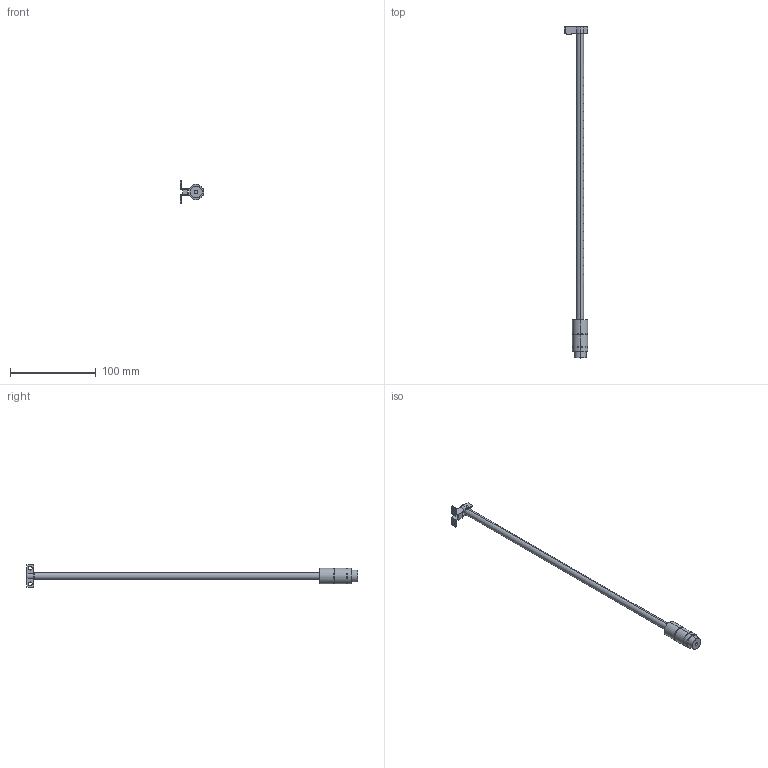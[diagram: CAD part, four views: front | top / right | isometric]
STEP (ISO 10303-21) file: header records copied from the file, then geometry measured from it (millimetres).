
FILE_DESCRIPTION (( 'STEP AP203' ), '1' );
FILE_NAME ('ER-VAB032.STEP', '2005-09-05T00:29:04', ( '' ), ( '' ), 'SwSTEP 2.0', 'SolidWorks 2004073', '' );
FILE_SCHEMA (( 'CONFIG_CONTROL_DESIGN' ));
Length unit declared in the file: millimetre
Products named in the file (1): ER-VAB032
Bounding box: 28 x 387.4 x 26 mm (x, y, z)
Volume: 23505.6 mm3; surface area: 18367.4 mm2
Topology: 2 solids, 2 shells, 127 faces, 344 edges, 228 vertices
Faces by surface type: cylinder 92, plane 35
Entity records: 5097 total; most frequent: CARTESIAN_POINT 1888, ORIENTED_EDGE 688, DIRECTION 520, EDGE_CURVE 344, VERTEX_POINT 228, EDGE_LOOP 204, AXIS2_PLACEMENT_3D 180, VECTOR 160
